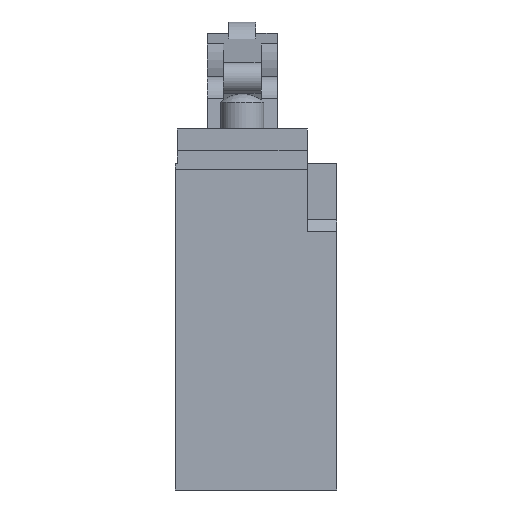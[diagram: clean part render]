
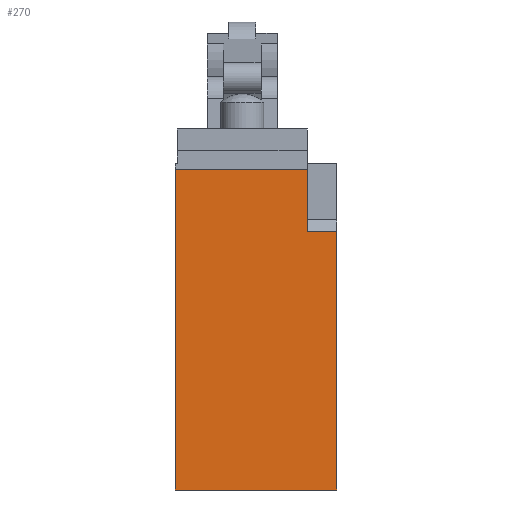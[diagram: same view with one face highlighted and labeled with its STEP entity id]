
A CAD part, left-side view. The second image highlights one B-rep face of the part: STEP entity #270.
In plain terms, the highlighted planar face has unit normal (-1, 0, 0).
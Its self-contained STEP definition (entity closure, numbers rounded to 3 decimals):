
#149=CARTESIAN_POINT('',(-15.15,15.0,59.5));
#150=VERTEX_POINT('',#149);
#159=CARTESIAN_POINT('',(-15.15,-9.5,59.5));
#160=VERTEX_POINT('',#159);
#161=CARTESIAN_POINT('',(-15.15,-9.5,59.5));
#162=DIRECTION('',(0.0,1.0,0.0));
#163=VECTOR('',#162,24.5);
#164=LINE('',#161,#163);
#165=EDGE_CURVE('',#160,#150,#164,.T.);
#224=CARTESIAN_POINT('',(-15.15,-15.0,0.0));
#225=DIRECTION('',(-1.0,0.0,0.0));
#226=DIRECTION('',(0.0,0.0,1.0));
#227=AXIS2_PLACEMENT_3D('',#224,#225,#226);
#228=PLANE('',#227);
#229=ORIENTED_EDGE('',*,*,#165,.T.);
#230=CARTESIAN_POINT('',(-15.15,15.0,0.0));
#231=VERTEX_POINT('',#230);
#232=CARTESIAN_POINT('',(-15.15,15.0,0.0));
#233=DIRECTION('',(0.0,0.0,1.0));
#234=VECTOR('',#233,59.5);
#235=LINE('',#232,#234);
#236=EDGE_CURVE('',#231,#150,#235,.T.);
#237=ORIENTED_EDGE('',*,*,#236,.F.);
#238=CARTESIAN_POINT('',(-15.15,-15.0,0.0));
#239=VERTEX_POINT('',#238);
#240=CARTESIAN_POINT('',(-15.15,-15.0,0.0));
#241=DIRECTION('',(0.0,1.0,0.0));
#242=VECTOR('',#241,30.0);
#243=LINE('',#240,#242);
#244=EDGE_CURVE('',#239,#231,#243,.T.);
#245=ORIENTED_EDGE('',*,*,#244,.F.);
#246=CARTESIAN_POINT('',(-15.15,-15.0,48.));
#247=VERTEX_POINT('',#246);
#248=CARTESIAN_POINT('',(-15.15,-15.0,0.0));
#249=DIRECTION('',(0.0,0.0,1.0));
#250=VECTOR('',#249,48.);
#251=LINE('',#248,#250);
#252=EDGE_CURVE('',#239,#247,#251,.T.);
#253=ORIENTED_EDGE('',*,*,#252,.T.);
#254=CARTESIAN_POINT('',(-15.15,-9.5,48.));
#255=VERTEX_POINT('',#254);
#256=CARTESIAN_POINT('',(-15.15,-15.0,48.));
#257=DIRECTION('',(0.0,1.0,0.0));
#258=VECTOR('',#257,5.5);
#259=LINE('',#256,#258);
#260=EDGE_CURVE('',#247,#255,#259,.T.);
#261=ORIENTED_EDGE('',*,*,#260,.T.);
#262=CARTESIAN_POINT('',(-15.15,-9.5,48.));
#263=DIRECTION('',(0.0,0.0,1.0));
#264=VECTOR('',#263,11.5);
#265=LINE('',#262,#264);
#266=EDGE_CURVE('',#255,#160,#265,.T.);
#267=ORIENTED_EDGE('',*,*,#266,.T.);
#268=EDGE_LOOP('',(#229,#237,#245,#253,#261,#267));
#269=FACE_OUTER_BOUND('',#268,.T.);
#270=ADVANCED_FACE('',(#269),#228,.T.);
